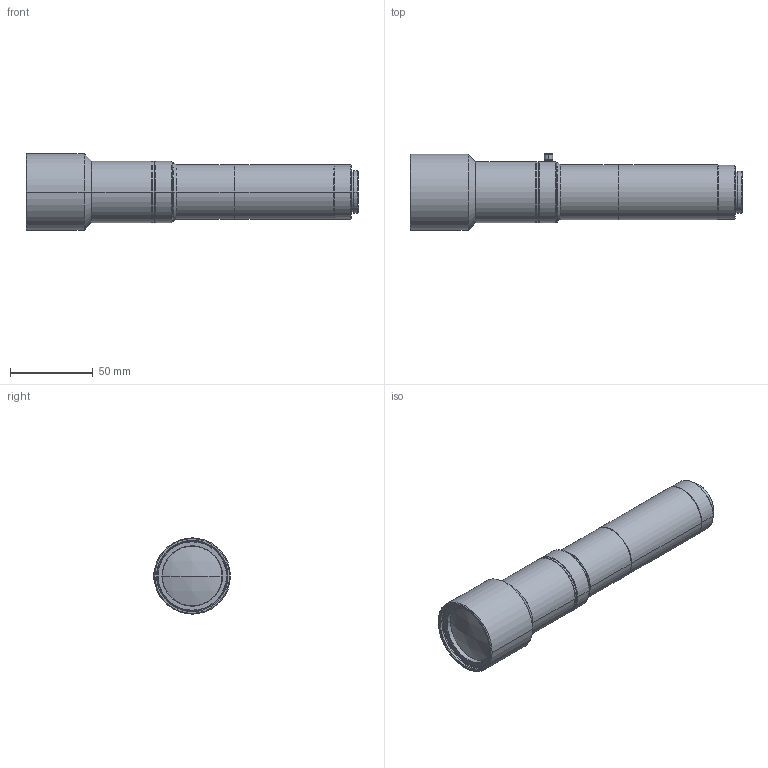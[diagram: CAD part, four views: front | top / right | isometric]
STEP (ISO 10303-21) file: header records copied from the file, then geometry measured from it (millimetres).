
FILE_DESCRIPTION (( 'STEP AP214' ), '1' );
FILE_NAME ('VS-THV3-110_S.STEP', '2020-05-18T23:20:29', ( '' ), ( '' ), 'SwSTEP 2.0', 'SolidWorks 2018', '' );
FILE_SCHEMA (( 'AUTOMOTIVE_DESIGN' ));
Length unit declared in the file: millimetre
Products named in the file (1): VS-THV3-110_S
Bounding box: 200.27 x 46.3 x 46 mm (x, y, z)
Volume: 203908.5 mm3; surface area: 27201 mm2
Topology: 1 solids, 1 shells, 109 faces, 219 edges, 125 vertices
Faces by surface type: cone 56, cylinder 36, plane 15, sphere 2
Entity records: 2871 total; most frequent: DIRECTION 557, CARTESIAN_POINT 488, ORIENTED_EDGE 438, AXIS2_PLACEMENT_3D 232, EDGE_CURVE 219, VERTEX_POINT 125, CIRCLE 122, EDGE_LOOP 122
